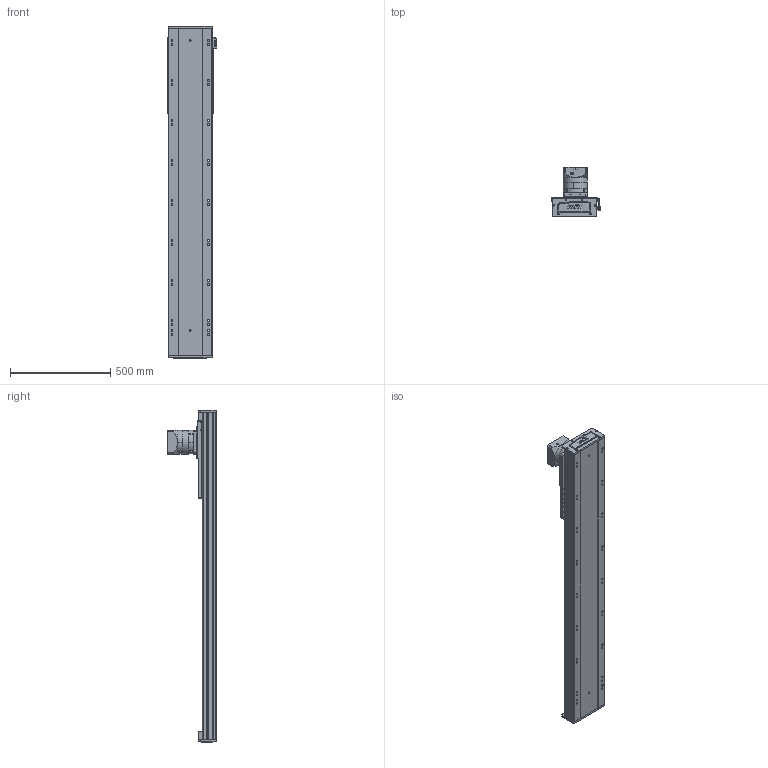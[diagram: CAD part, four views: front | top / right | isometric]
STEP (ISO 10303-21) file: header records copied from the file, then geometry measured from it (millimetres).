
FILE_DESCRIPTION (( 'STEP AP203' ), '1' );
FILE_NAME ('RY220-C-300-UK.SLDASM_1150.step', '2022-08-01T05:59:07', ( '' ), ( '' ), 'SwSTEP 2.0', 'SolidWorks 2016', '' );
FILE_SCHEMA (( 'CONFIG_CONTROL_DESIGN' ));
Length unit declared in the file: millimetre
Products named in the file (10): RY220喘沭俋离覜茼え; RY220喘沭賑輸; RY220-C-300-UK.SLDASM_1150; RY220菁釱MK-300_1150; RY220喘沭綴裔啣; RY220-齿条模组电机安装板; 滅袉蝶輸ㄗG412隅秶ㄘ; PF115L1-S2-22-58-110-145-M8; 覜茼ん674; RY140直线电机感应器674光电安装座
Assembly tree (12 placements, depth 2):
  RY220-C-300-UK.SLDASM_1150
    RY220菁釱MK-300_1150
    RY220喘沭賑輸
    RY220-齿条模组电机安装板
    PF115L1-S2-22-58-110-145-M8
    RY220喘沭綴裔啣  x2
    滅袉蝶輸ㄗG412隅秶ㄘ  x2
    RY140直线电机感应器674光电安装座
    覜茼ん674  x2
    RY220喘沭俋离覜茼え
Bounding box: 247 x 244.5 x 1659 mm (x, y, z)
Volume: 13199587 mm3; surface area: 2606937.7 mm2
Topology: 18 solids, 26 shells, 2004 faces, 5377 edges, 3421 vertices
Faces by surface type: cylinder 921, plane 751, cone 170, bspline 162
Entity records: 63493 total; most frequent: CARTESIAN_POINT 17513, DIRECTION 9383, ORIENTED_EDGE 9314, EDGE_CURVE 4657, AXIS2_PLACEMENT_3D 3559, VERTEX_POINT 3047, EDGE_LOOP 2276, LINE 2265
